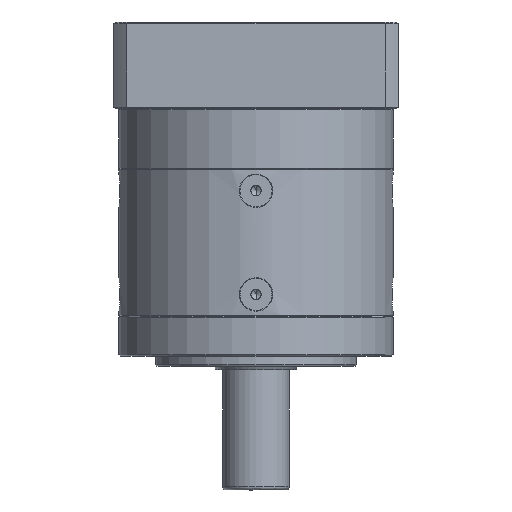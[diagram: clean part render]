
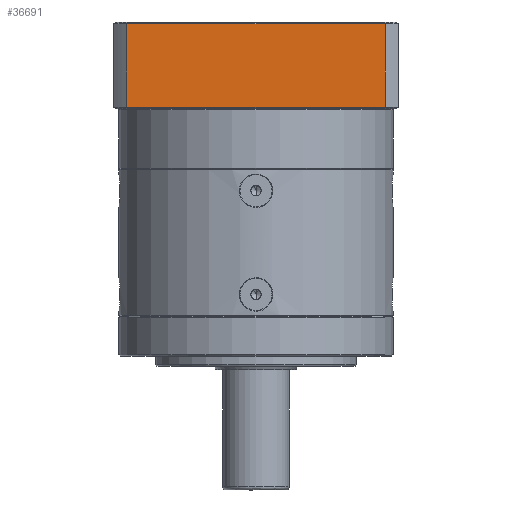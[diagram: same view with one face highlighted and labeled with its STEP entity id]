
A CAD part, front view. The second image highlights one B-rep face of the part: STEP entity #36691.
In plain terms, the highlighted planar face has unit normal (0, -1, 0).
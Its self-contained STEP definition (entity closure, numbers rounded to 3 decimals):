
#1562 = EDGE_CURVE ( 'NONE', #67937, #105994, #31349, .T. ) ;
#5826 = CARTESIAN_POINT ( 'NONE',  ( -57.74, -21.694, 45.785 ) ) ;
#25745 = CARTESIAN_POINT ( 'NONE',  ( -135.2, -21.694, 20.785 ) ) ;
#26007 = CARTESIAN_POINT ( 'NONE',  ( -57.74, -21.694, 46.285 ) ) ;
#26085 = EDGE_CURVE ( 'NONE', #67937, #45675, #64694, .T. ) ;
#29917 = CARTESIAN_POINT ( 'NONE',  ( -135.2, -21.694, 45.785 ) ) ;
#30101 = LINE ( 'NONE', #26007, #56291 ) ;
#31349 = LINE ( 'NONE', #77377, #77463 ) ;
#32184 = DIRECTION ( 'NONE',  ( 1., 0., 0. ) ) ;
#34228 = PLANE ( 'NONE',  #105733 ) ;
#35024 = EDGE_CURVE ( 'NONE', #101529, #105994, #30101, .T. ) ;
#35965 = DIRECTION ( 'NONE',  ( 0., 0., -1. ) ) ;
#36691 = ADVANCED_FACE ( 'NONE', ( #87083 ), #34228, .F. ) ;
#38078 = EDGE_CURVE ( 'NONE', #45675, #101529, #114257, .T. ) ;
#38301 = DIRECTION ( 'NONE',  ( 1., 0., 0. ) ) ;
#38797 = ORIENTED_EDGE ( 'NONE', *, *, #1562, .T. ) ;
#39327 = CARTESIAN_POINT ( 'NONE',  ( -135.2, -21.694, 46.285 ) ) ;
#41566 = ORIENTED_EDGE ( 'NONE', *, *, #35024, .F. ) ;
#44541 = DIRECTION ( 'NONE',  ( 0., 1., 0. ) ) ;
#45675 = VERTEX_POINT ( 'NONE', #29917 ) ;
#55222 = CARTESIAN_POINT ( 'NONE',  ( -57.74, -21.694, 20.785 ) ) ;
#56291 = VECTOR ( 'NONE', #35965, 1000. ) ;
#61792 = VECTOR ( 'NONE', #32184, 1000. ) ;
#64694 = LINE ( 'NONE', #39327, #117232 ) ;
#67937 = VERTEX_POINT ( 'NONE', #25745 ) ;
#75328 = ORIENTED_EDGE ( 'NONE', *, *, #26085, .F. ) ;
#77377 = CARTESIAN_POINT ( 'NONE',  ( -57.74, -21.694, 20.785 ) ) ;
#77463 = VECTOR ( 'NONE', #38301, 1000. ) ;
#86712 = ORIENTED_EDGE ( 'NONE', *, *, #38078, .F. ) ;
#87083 = FACE_OUTER_BOUND ( 'NONE', #108057, .T. ) ;
#101120 = CARTESIAN_POINT ( 'NONE',  ( -57.74, -21.694, 45.785 ) ) ;
#101529 = VERTEX_POINT ( 'NONE', #5826 ) ;
#103566 = CARTESIAN_POINT ( 'NONE',  ( -57.74, -21.694, 46.285 ) ) ;
#105733 = AXIS2_PLACEMENT_3D ( 'NONE', #103566, #44541, #113481 ) ;
#105994 = VERTEX_POINT ( 'NONE', #55222 ) ;
#108057 = EDGE_LOOP ( 'NONE', ( #38797, #41566, #86712, #75328 ) ) ;
#113481 = DIRECTION ( 'NONE',  ( -1., 0., 0. ) ) ;
#114257 = LINE ( 'NONE', #101120, #61792 ) ;
#117232 = VECTOR ( 'NONE', #119983, 1000. ) ;
#119983 = DIRECTION ( 'NONE',  ( 0., 0., 1. ) ) ;
